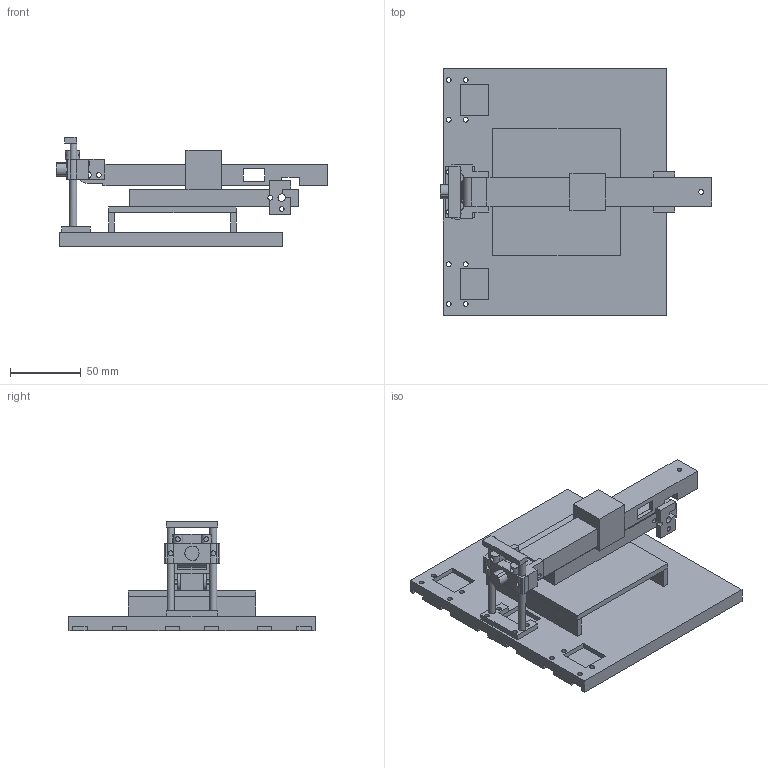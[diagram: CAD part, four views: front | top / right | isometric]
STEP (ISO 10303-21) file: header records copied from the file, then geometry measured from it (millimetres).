
FILE_DESCRIPTION(('Open CASCADE Model'),'2;1');
FILE_NAME('F07_asm_folded','2026-11-15T22:32:23',('Author'),( 'Open CASCADE'),'Open CASCADE STEP processor 8.0','build123d', 'Unknown');
FILE_SCHEMA(('AUTOMOTIVE_DESIGN { 1 0 10303 214 1 1 1 1 }'));
Length unit declared in the file: millimetre
Products named in the file (7): F07_asm_folded; BASE; BED; TWR_0; CAR_0; COL_0; ARM
Assembly tree (6 placements, depth 2):
  F07_asm_folded
    BASE
    BED
    TWR_0
    CAR_0
    COL_0
    ARM
Bounding box: 191.5 x 173.5 x 77 mm (x, y, z)
Volume: 391404.9 mm3; surface area: 128948.4 mm2
Topology: 6 solids, 6 shells, 289 faces, 800 edges, 526 vertices
Faces by surface type: plane 224, cylinder 65
Full cylindrical faces by diameter (mm): 3.4 x36, 5 x2, 5.3 x4, 5.4 x2
Entity records: 25074 total; most frequent: CARTESIAN_POINT 9580, DIRECTION 2602, LINE 1612, VECTOR 1612, ORIENTED_EDGE 1600, PCURVE 1600, DEFINITIONAL_REPRESENTATION 1600, EDGE_CURVE 800
